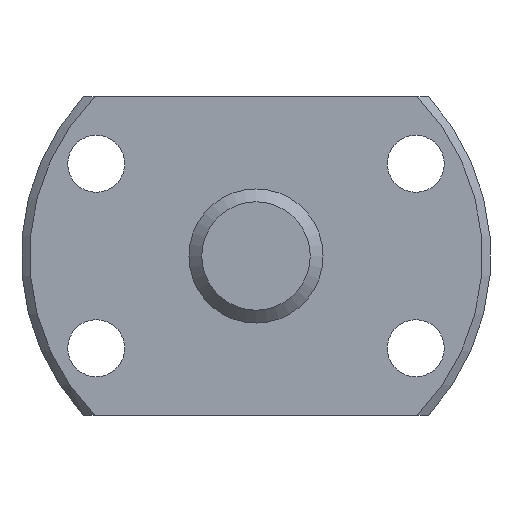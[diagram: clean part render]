
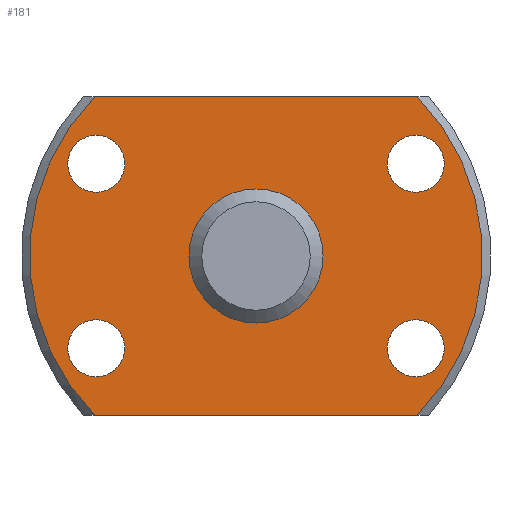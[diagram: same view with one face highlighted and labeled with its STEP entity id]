
A CAD part, left-side view. The second image highlights one B-rep face of the part: STEP entity #181.
In plain terms, the highlighted planar face has unit normal (-1, 0, 0).
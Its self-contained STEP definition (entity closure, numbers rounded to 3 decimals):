
#181 = ADVANCED_FACE( '', ( #229, #230, #231, #232, #233, #234 ), #235, .T. );
#229 = FACE_BOUND( '', #303, .T. );
#230 = FACE_OUTER_BOUND( '', #304, .T. );
#231 = FACE_BOUND( '', #305, .T. );
#232 = FACE_BOUND( '', #306, .T. );
#233 = FACE_BOUND( '', #307, .T. );
#234 = FACE_BOUND( '', #308, .T. );
#235 = PLANE( '', #309 );
#303 = EDGE_LOOP( '', ( #422 ) );
#304 = EDGE_LOOP( '', ( #423, #424, #425, #426 ) );
#305 = EDGE_LOOP( '', ( #427 ) );
#306 = EDGE_LOOP( '', ( #428 ) );
#307 = EDGE_LOOP( '', ( #429 ) );
#308 = EDGE_LOOP( '', ( #430 ) );
#309 = AXIS2_PLACEMENT_3D( '', #431, #432, #433 );
#422 = ORIENTED_EDGE( '', *, *, #534, .T. );
#423 = ORIENTED_EDGE( '', *, *, #535, .F. );
#424 = ORIENTED_EDGE( '', *, *, #536, .F. );
#425 = ORIENTED_EDGE( '', *, *, #511, .F. );
#426 = ORIENTED_EDGE( '', *, *, #532, .F. );
#427 = ORIENTED_EDGE( '', *, *, #537, .T. );
#428 = ORIENTED_EDGE( '', *, *, #538, .T. );
#429 = ORIENTED_EDGE( '', *, *, #539, .T. );
#430 = ORIENTED_EDGE( '', *, *, #540, .T. );
#431 = CARTESIAN_POINT( '', ( 0., 13.5, 0. ) );
#432 = DIRECTION( '', ( -1., 0., 0. ) );
#433 = DIRECTION( '', ( 0., 0., 1. ) );
#511 = EDGE_CURVE( '', #560, #562, #563, .T. );
#532 = EDGE_CURVE( '', #597, #560, #600, .T. );
#534 = EDGE_CURVE( '', #602, #602, #603, .T. );
#535 = EDGE_CURVE( '', #604, #597, #605, .T. );
#536 = EDGE_CURVE( '', #562, #604, #606, .T. );
#537 = EDGE_CURVE( '', #607, #607, #608, .T. );
#538 = EDGE_CURVE( '', #609, #609, #610, .T. );
#539 = EDGE_CURVE( '', #611, #611, #612, .T. );
#540 = EDGE_CURVE( '', #613, #613, #614, .T. );
#560 = VERTEX_POINT( '', #642 );
#562 = VERTEX_POINT( '', #647 );
#563 = LINE( '', #648, #649 );
#597 = VERTEX_POINT( '', #699 );
#600 = CIRCLE( '', #705, 13.5 );
#602 = VERTEX_POINT( '', #707 );
#603 = CIRCLE( '', #708, 4. );
#604 = VERTEX_POINT( '', #709 );
#605 = LINE( '', #710, #711 );
#606 = CIRCLE( '', #712, 13.5 );
#607 = VERTEX_POINT( '', #713 );
#608 = CIRCLE( '', #714, 1.7 );
#609 = VERTEX_POINT( '', #715 );
#610 = CIRCLE( '', #716, 1.7 );
#611 = VERTEX_POINT( '', #717 );
#612 = CIRCLE( '', #718, 1.7 );
#613 = VERTEX_POINT( '', #719 );
#614 = CIRCLE( '', #720, 1.7 );
#642 = CARTESIAN_POINT( '', ( 0., -9.592, -9.5 ) );
#647 = CARTESIAN_POINT( '', ( 0., 9.592, -9.5 ) );
#648 = CARTESIAN_POINT( '', ( 0., -14., -9.5 ) );
#649 = VECTOR( '', #748, 1000. );
#699 = CARTESIAN_POINT( '', ( 0., -9.592, 9.5 ) );
#705 = AXIS2_PLACEMENT_3D( '', #786, #787, #788 );
#707 = CARTESIAN_POINT( '', ( 0., 0., -4. ) );
#708 = AXIS2_PLACEMENT_3D( '', #792, #793, #794 );
#709 = CARTESIAN_POINT( '', ( 0., 9.592, 9.5 ) );
#710 = CARTESIAN_POINT( '', ( 0., 14., 9.5 ) );
#711 = VECTOR( '', #795, 1000. );
#712 = AXIS2_PLACEMENT_3D( '', #796, #797, #798 );
#713 = CARTESIAN_POINT( '', ( 0., 9.526, 3.8 ) );
#714 = AXIS2_PLACEMENT_3D( '', #799, #800, #801 );
#715 = CARTESIAN_POINT( '', ( 0., -9.526, 3.8 ) );
#716 = AXIS2_PLACEMENT_3D( '', #802, #803, #804 );
#717 = CARTESIAN_POINT( '', ( 0., -9.526, -7.2 ) );
#718 = AXIS2_PLACEMENT_3D( '', #805, #806, #807 );
#719 = CARTESIAN_POINT( '', ( 0., 9.526, -7.2 ) );
#720 = AXIS2_PLACEMENT_3D( '', #808, #809, #810 );
#748 = DIRECTION( '', ( 0., 1., 0. ) );
#786 = CARTESIAN_POINT( '', ( 0., 0., 0. ) );
#787 = DIRECTION( '', ( 1., 0., 0. ) );
#788 = DIRECTION( '', ( 0., 0., -1. ) );
#792 = CARTESIAN_POINT( '', ( 0., 0., 0. ) );
#793 = DIRECTION( '', ( 1., 0., 0. ) );
#794 = DIRECTION( '', ( 0., 0., -1. ) );
#795 = DIRECTION( '', ( 0., -1., 0. ) );
#796 = CARTESIAN_POINT( '', ( 0., 0., 0. ) );
#797 = DIRECTION( '', ( 1., 0., 0. ) );
#798 = DIRECTION( '', ( 0., 0., -1. ) );
#799 = CARTESIAN_POINT( '', ( 0., 9.526, 5.5 ) );
#800 = DIRECTION( '', ( 1., 0., 0. ) );
#801 = DIRECTION( '', ( 0., 0., -1. ) );
#802 = CARTESIAN_POINT( '', ( 0., -9.526, 5.5 ) );
#803 = DIRECTION( '', ( 1., 0., 0. ) );
#804 = DIRECTION( '', ( 0., 0., -1. ) );
#805 = CARTESIAN_POINT( '', ( 0., -9.526, -5.5 ) );
#806 = DIRECTION( '', ( 1., 0., 0. ) );
#807 = DIRECTION( '', ( 0., 0., -1. ) );
#808 = CARTESIAN_POINT( '', ( 0., 9.526, -5.5 ) );
#809 = DIRECTION( '', ( 1., 0., 0. ) );
#810 = DIRECTION( '', ( 0., 0., -1. ) );
